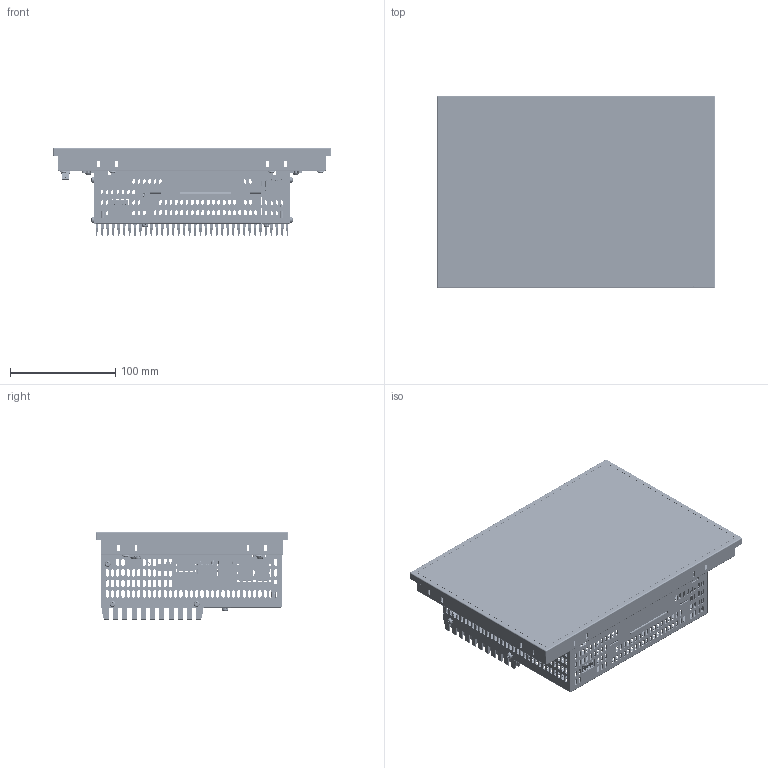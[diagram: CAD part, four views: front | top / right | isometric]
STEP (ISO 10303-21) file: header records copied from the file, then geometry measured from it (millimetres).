
FILE_DESCRIPTION (( 'STEP AP214' ), '1' );
FILE_NAME ('ETT1044 (01-230-1044) 20200807.STEP', '2020-08-07T10:57:30', ( 'Windows-Benutzer' ), ( '' ), 'SwSTEP 2.0', 'SolidWorks 2018', '' );
FILE_SCHEMA (( 'AUTOMOTIVE_DESIGN' ));
Length unit declared in the file: millimetre
Products named in the file (1): ETT1044 (01-230-1044) 20200807
Bounding box: 264 x 183 x 83 mm (x, y, z)
Surface area: 528872.8 mm2 (no closed solid volume)
Topology: 0 solids, 115 shells, 14313 faces, 39750 edges, 26062 vertices
Faces by surface type: plane 8458, cylinder 5098, cone 419, bspline 220, torus 90, sphere 28
Full cylindrical faces by diameter (mm): 0.2 x1
Entity records: 632512 total; most frequent: CARTESIAN_POINT 103624, ORIENTED_EDGE 79158, DIRECTION 74051, EDGE_CURVE 39738, VECTOR 26763, LINE 26763, VERTEX_POINT 26084, AXIS2_PLACEMENT_3D 23644
